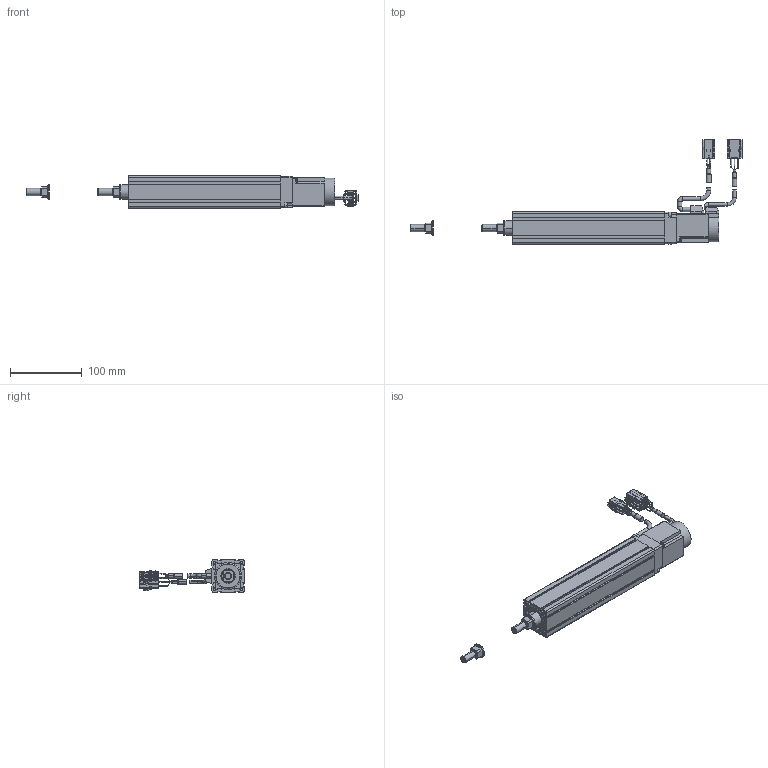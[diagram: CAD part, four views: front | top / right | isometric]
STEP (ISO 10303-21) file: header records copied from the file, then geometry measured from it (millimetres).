
FILE_DESCRIPTION((''),'2;1');
FILE_NAME('BET4D-ST-C_N-10_IGS_PRT','2017-06-18T',(' '),(''),'PRO/ENGINEER BY PARAMETRIC TECHNOLOGY CORPORATION, 2015030','PRO/ENGINEER BY PARAMETRIC TECHNOLOGY CORPORATION, 2015030','');
FILE_SCHEMA(('CONFIG_CONTROL_DESIGN'));
Length unit declared in the file: millimetre
Products named in the file (1): BET4D-ST-C_N-10_IGS_PRT
Bounding box: 463.4 x 145.7 x 45 mm (x, y, z)
Volume: 424440.4 mm3; surface area: 142914.3 mm2
Topology: 5 solids, 29 shells, 845 faces, 2184 edges, 1408 vertices
Faces by surface type: plane 533, cylinder 226, torus 64, cone 18, sphere 4
Entity records: 25933 total; most frequent: CARTESIAN_POINT 4775, DIRECTION 4434, ORIENTED_EDGE 4304, EDGE_CURVE 2180, VECTOR 1532, LINE 1532, AXIS2_PLACEMENT_3D 1451, VERTEX_POINT 1408
